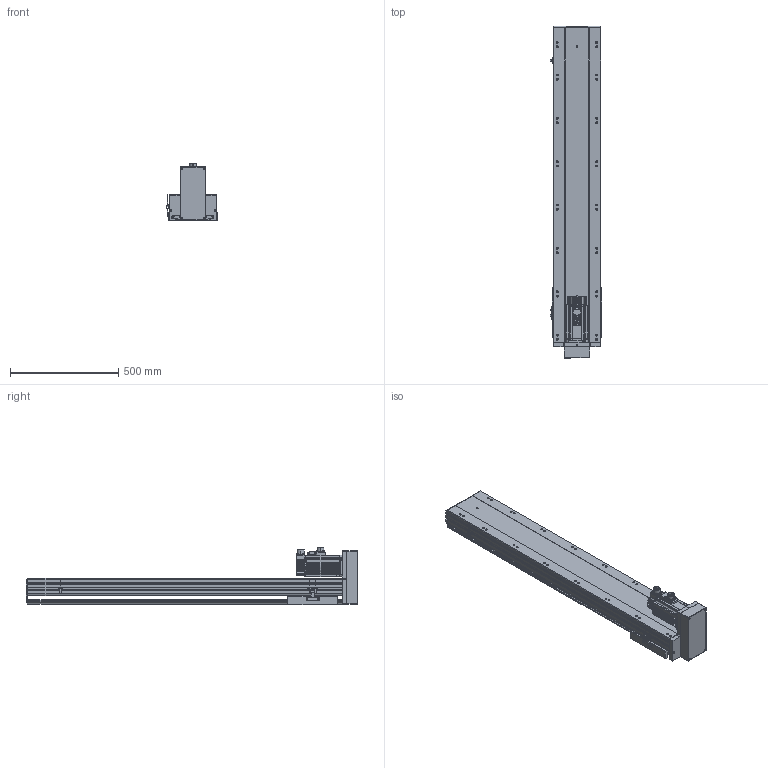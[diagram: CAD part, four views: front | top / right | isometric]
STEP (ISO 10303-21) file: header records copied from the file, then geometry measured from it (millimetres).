
FILE_DESCRIPTION (( 'STEP AP203' ), '1' );
FILE_NAME ('BTH22-L05-1150-BM-PCD115-M6-95.STEP', '2022-05-08T06:04:06', ( 'CXY' ), ( 'BT' ), 'SwSTEP 2.0', 'SolidWorks 2016', '' );
FILE_SCHEMA (( 'CONFIG_CONTROL_DESIGN' ));
Length unit declared in the file: millimetre
Products named in the file (7): BTH22-BM-菁釱; BTH22-BM-HZ; BTH22-BM-04; BTH22-L05-1150-BM-PCD115-M6-95; BTH22-BM-01; PCD115; BTH22-BM-06-H100
Assembly tree (8 placements, depth 2):
  BTH22-L05-1150-BM-PCD115-M6-95
    BTH22-BM-菁釱
    BTH22-BM-01
    BTH22-BM-04  x3
    BTH22-BM-HZ
    BTH22-BM-06-H100
    PCD115
Bounding box: 238.7 x 1531.5 x 267 mm (x, y, z)
Volume: 20440122.2 mm3; surface area: 2739146.9 mm2
Topology: 50 solids, 50 shells, 3334 faces, 8621 edges, 5410 vertices
Faces by surface type: plane 1367, cylinder 1358, bspline 508, cone 101
Entity records: 113117 total; most frequent: CARTESIAN_POINT 36474, ORIENTED_EDGE 16270, DIRECTION 15286, EDGE_CURVE 8135, AXIS2_PLACEMENT_3D 5455, VERTEX_POINT 5178, LINE 4376, VECTOR 4376
